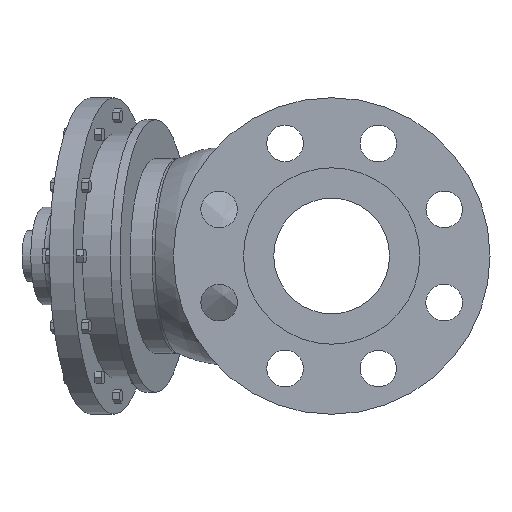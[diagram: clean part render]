
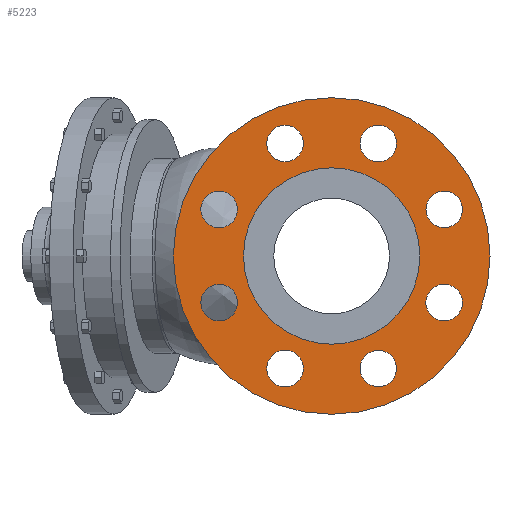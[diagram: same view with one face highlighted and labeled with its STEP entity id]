
A CAD part, left-side view. The second image highlights one B-rep face of the part: STEP entity #5223.
In plain terms, the highlighted planar face has unit normal (-1, 0, 0).
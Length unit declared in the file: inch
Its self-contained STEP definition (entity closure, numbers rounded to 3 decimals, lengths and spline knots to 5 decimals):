
#254=PLANE('',#5602);
#528=FACE_OUTER_BOUND('',#1030,.T.);
#536=CIRCLE('',#5253,0.375);
#538=CIRCLE('',#5256,0.375);
#540=CIRCLE('',#5259,0.375);
#542=CIRCLE('',#5262,0.375);
#544=CIRCLE('',#5265,0.375);
#546=CIRCLE('',#5268,0.375);
#548=CIRCLE('',#5271,0.375);
#550=CIRCLE('',#5274,0.375);
#638=CIRCLE('',#5600,1.81);
#639=CIRCLE('',#5601,1.81);
#640=CIRCLE('',#5603,3.25);
#641=CIRCLE('',#5604,3.25);
#695=FACE_BOUND('',#1031,.T.);
#696=FACE_BOUND('',#1032,.T.);
#697=FACE_BOUND('',#1033,.T.);
#698=FACE_BOUND('',#1034,.T.);
#699=FACE_BOUND('',#1035,.T.);
#700=FACE_BOUND('',#1036,.T.);
#701=FACE_BOUND('',#1037,.T.);
#702=FACE_BOUND('',#1038,.T.);
#703=FACE_BOUND('',#1039,.T.);
#1030=EDGE_LOOP('',(#4592,#4593));
#1031=EDGE_LOOP('',(#4594));
#1032=EDGE_LOOP('',(#4595));
#1033=EDGE_LOOP('',(#4596));
#1034=EDGE_LOOP('',(#4597));
#1035=EDGE_LOOP('',(#4598));
#1036=EDGE_LOOP('',(#4599));
#1037=EDGE_LOOP('',(#4600));
#1038=EDGE_LOOP('',(#4601));
#1039=EDGE_LOOP('',(#4602,#4603));
#2161=VERTEX_POINT('',#6944);
#2163=VERTEX_POINT('',#6950);
#2165=VERTEX_POINT('',#6956);
#2167=VERTEX_POINT('',#6962);
#2169=VERTEX_POINT('',#6968);
#2171=VERTEX_POINT('',#6974);
#2173=VERTEX_POINT('',#6980);
#2175=VERTEX_POINT('',#6986);
#2608=VERTEX_POINT('',#9433);
#2609=VERTEX_POINT('',#9434);
#2610=VERTEX_POINT('',#9439);
#2611=VERTEX_POINT('',#9440);
#2624=EDGE_CURVE('',#2161,#2161,#536,.T.);
#2627=EDGE_CURVE('',#2163,#2163,#538,.T.);
#2630=EDGE_CURVE('',#2165,#2165,#540,.T.);
#2633=EDGE_CURVE('',#2167,#2167,#542,.T.);
#2636=EDGE_CURVE('',#2169,#2169,#544,.T.);
#2639=EDGE_CURVE('',#2171,#2171,#546,.T.);
#2642=EDGE_CURVE('',#2173,#2173,#548,.T.);
#2645=EDGE_CURVE('',#2175,#2175,#550,.T.);
#3284=EDGE_CURVE('',#2608,#2609,#638,.T.);
#3285=EDGE_CURVE('',#2609,#2608,#639,.T.);
#3287=EDGE_CURVE('',#2610,#2611,#640,.T.);
#3288=EDGE_CURVE('',#2611,#2610,#641,.T.);
#4592=ORIENTED_EDGE('',*,*,#3287,.F.);
#4593=ORIENTED_EDGE('',*,*,#3288,.F.);
#4594=ORIENTED_EDGE('',*,*,#2624,.T.);
#4595=ORIENTED_EDGE('',*,*,#2627,.T.);
#4596=ORIENTED_EDGE('',*,*,#2630,.T.);
#4597=ORIENTED_EDGE('',*,*,#2633,.T.);
#4598=ORIENTED_EDGE('',*,*,#2636,.T.);
#4599=ORIENTED_EDGE('',*,*,#2639,.T.);
#4600=ORIENTED_EDGE('',*,*,#2642,.T.);
#4601=ORIENTED_EDGE('',*,*,#2645,.T.);
#4602=ORIENTED_EDGE('',*,*,#3284,.T.);
#4603=ORIENTED_EDGE('',*,*,#3285,.T.);
#5223=ADVANCED_FACE('',(#528,#695,#696,#697,#698,#699,#700,#701,#702,#703),
#254,.T.);
#5253=AXIS2_PLACEMENT_3D('',#6945,#5642,#5643);
#5256=AXIS2_PLACEMENT_3D('',#6951,#5649,#5650);
#5259=AXIS2_PLACEMENT_3D('',#6957,#5656,#5657);
#5262=AXIS2_PLACEMENT_3D('',#6963,#5663,#5664);
#5265=AXIS2_PLACEMENT_3D('',#6969,#5670,#5671);
#5268=AXIS2_PLACEMENT_3D('',#6975,#5677,#5678);
#5271=AXIS2_PLACEMENT_3D('',#6981,#5684,#5685);
#5274=AXIS2_PLACEMENT_3D('',#6987,#5691,#5692);
#5600=AXIS2_PLACEMENT_3D('',#9435,#6854,#6855);
#5601=AXIS2_PLACEMENT_3D('',#9436,#6856,#6857);
#5602=AXIS2_PLACEMENT_3D('',#9438,#6859,#6860);
#5603=AXIS2_PLACEMENT_3D('',#9441,#6861,#6862);
#5604=AXIS2_PLACEMENT_3D('',#9442,#6863,#6864);
#5642=DIRECTION('center_axis',(1.,0.,0.));
#5643=DIRECTION('ref_axis',(0.,0.707,0.707));
#5649=DIRECTION('center_axis',(1.,0.,0.));
#5650=DIRECTION('ref_axis',(0.,1.,0.));
#5656=DIRECTION('center_axis',(1.,0.,0.));
#5657=DIRECTION('ref_axis',(0.,0.707,-0.707));
#5663=DIRECTION('center_axis',(1.,0.,0.));
#5664=DIRECTION('ref_axis',(0.,0.,-1.));
#5670=DIRECTION('center_axis',(1.,0.,0.));
#5671=DIRECTION('ref_axis',(0.,-0.707,-0.707));
#5677=DIRECTION('center_axis',(1.,0.,0.));
#5678=DIRECTION('ref_axis',(0.,-1.,0.));
#5684=DIRECTION('center_axis',(1.,0.,0.));
#5685=DIRECTION('ref_axis',(0.,-0.707,0.707));
#5691=DIRECTION('center_axis',(1.,0.,0.));
#5692=DIRECTION('ref_axis',(0.,0.,1.));
#6854=DIRECTION('center_axis',(1.,0.,0.));
#6855=DIRECTION('ref_axis',(0.,0.,-1.));
#6856=DIRECTION('center_axis',(1.,0.,0.));
#6857=DIRECTION('ref_axis',(0.,0.,-1.));
#6859=DIRECTION('center_axis',(-1.,0.,0.));
#6860=DIRECTION('ref_axis',(0.,0.,1.));
#6861=DIRECTION('center_axis',(1.,0.,0.));
#6862=DIRECTION('ref_axis',(0.,0.,-1.));
#6863=DIRECTION('center_axis',(1.,0.,0.));
#6864=DIRECTION('ref_axis',(0.,0.,-1.));
#6944=CARTESIAN_POINT('',(-4.075,0.69154,-2.57486));
#6945=CARTESIAN_POINT('Origin',(-4.075,0.95671,-2.3097));
#6950=CARTESIAN_POINT('',(-4.075,-1.33171,-2.3097));
#6951=CARTESIAN_POINT('Origin',(-4.075,-0.95671,-2.3097));
#6956=CARTESIAN_POINT('',(-4.075,-2.57486,-0.69154));
#6957=CARTESIAN_POINT('Origin',(-4.075,-2.3097,-0.95671));
#6962=CARTESIAN_POINT('',(-4.075,-2.3097,1.33171));
#6963=CARTESIAN_POINT('Origin',(-4.075,-2.3097,0.95671));
#6968=CARTESIAN_POINT('',(-4.075,-0.69154,2.57486));
#6969=CARTESIAN_POINT('Origin',(-4.075,-0.95671,2.3097));
#6974=CARTESIAN_POINT('',(-4.075,1.33171,2.3097));
#6975=CARTESIAN_POINT('Origin',(-4.075,0.95671,2.3097));
#6980=CARTESIAN_POINT('',(-4.075,2.57486,0.69154));
#6981=CARTESIAN_POINT('Origin',(-4.075,2.3097,0.95671));
#6986=CARTESIAN_POINT('',(-4.075,2.3097,-1.33171));
#6987=CARTESIAN_POINT('Origin',(-4.075,2.3097,-0.95671));
#9433=CARTESIAN_POINT('',(-4.075,1.81,0.));
#9434=CARTESIAN_POINT('',(-4.075,-1.81,0.));
#9435=CARTESIAN_POINT('Origin',(-4.075,0.,0.));
#9436=CARTESIAN_POINT('Origin',(-4.075,0.,0.));
#9438=CARTESIAN_POINT('Origin',(-4.075,3.25,0.));
#9439=CARTESIAN_POINT('',(-4.075,3.25,0.));
#9440=CARTESIAN_POINT('',(-4.075,-3.25,0.));
#9441=CARTESIAN_POINT('Origin',(-4.075,0.,0.));
#9442=CARTESIAN_POINT('Origin',(-4.075,0.,0.));
